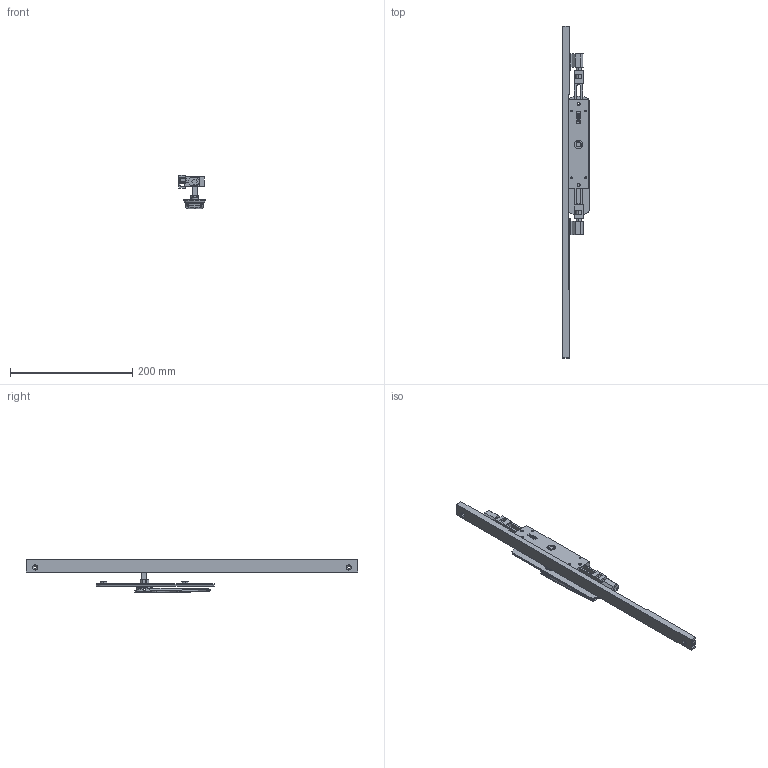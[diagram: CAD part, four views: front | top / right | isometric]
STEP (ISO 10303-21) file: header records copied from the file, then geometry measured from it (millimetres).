
FILE_DESCRIPTION (( 'STEP AP214' ), '1' );
FILE_NAME ('TPL-W-APC-603-L 28Oct2024.STEP', '2024-10-28T03:11:33', ( '' ), ( '' ), 'SwSTEP 2.0', 'SolidWorks 2023', '' );
FILE_SCHEMA (( 'AUTOMOTIVE_DESIGN' ));
Length unit declared in the file: millimetre
Products named in the file (18): Copy of TPLGen2 lock body non-keyed^Copy of TPLGen2 lock body non-keyed assembly_TPL-W-APC-103 18Oct2024; Copy of LKC-516 Escutcheon plate unkeyed 195mm long zinc - simplified^Copy of TPGen2 handle non-keyed short zinc - simplified_TPL-W-APC-103 18Oct2024; Copy of TPLGen2 lock body non-keyed assembly^TPL-W-APC-103 18Oct2024_Bolts extended; Copy of LKC-585 Rotator body zinc^Copy of TPGen2 handle non-keyed short zinc - simplified_TPL-W-APC-103 18Oct2024; Copy of LKC-505 Swing handle zinc - simplified^Copy of TPGen2 handle non-keyed short zinc - simplified_TPL-W-APC-103 18Oct2024; Adapter D - simplfied^TPL-W-APC-103 18Oct2024; Copy of LKC-586 Spindle square 8mm with M4 hole^Copy of TPGen2 handle non-keyed short zinc - simplified_TPL-W-APC-103 18Oct2024_37mm; Copy of Copy of LKC-531 Lock twinpoint transmission rod wood system^TPL-W-APC-103 18Oct2024_Standard Range 2891.7mm; Copy of COV-115-A Cover A suit TPLGen2 standard range AU with hinge holes^TPL-W-APC-103 18Oct2024_1335mm; Bolt(2)^TPL-W-APC-103 18Oct2024; Copy of TPGen2 handle non-keyed short zinc - simplified^TPL-W-APC-103 18Oct2024_Vertical; TPL-W-APC-603-L 28Oct2024; COV-115-C Cover C suit TPLGen2 standard range AU; Copy of COV-115-B Cover B suit TPLGen2 standard range AU with hinge holes^TPL-W-APC-103 18Oct2024_2870mm; Copy of TPLGen2 push rod - simplified^Copy of TPLGen2 lock body non-keyed assembly_TPL-W-APC-103 18Oct2024_Female thread M10; Adapter C - simplfied^TPL-W-APC-103 18Oct2024; Copy of LKC-584 Pivot body zinc - simplified^Copy of TPGen2 handle non-keyed short zinc - simplified_TPL-W-APC-103 18Oct2024; Copy of Copy of Copy of LKC-531 Lock twinpoint transmission rod wood system^TPL-W-APC-103 18Oct2024_Standard Range 2891.7mm
Assembly tree (15 placements, depth 3):
  Copy of COV-115-A Cover A suit TPLGen2 standard range AU with hinge holes^TPL-W-APC-103 18Oct2024_1335mm
  Bolt(2)^TPL-W-APC-103 18Oct2024
  TPL-W-APC-603-L 28Oct2024
    Copy of TPLGen2 lock body non-keyed assembly^TPL-W-APC-103 18Oct2024_Bolts extended
      Copy of TPLGen2 lock body non-keyed^Copy of TPLGen2 lock body non-keyed assembly_TPL-W-APC-103 18Oct2024
      Copy of TPLGen2 push rod - simplified^Copy of TPLGen2 lock body non-keyed assembly_TPL-W-APC-103 18Oct2024_Female thread M10  x2
    Copy of TPGen2 handle non-keyed short zinc - simplified^TPL-W-APC-103 18Oct2024_Vertical
      Copy of LKC-516 Escutcheon plate unkeyed 195mm long zinc - simplified^Copy of TPGen2 handle non-keyed short zinc - simplified_TPL-W-APC-103 18Oct2024
      Copy of LKC-505 Swing handle zinc - simplified^Copy of TPGen2 handle non-keyed short zinc - simplified_TPL-W-APC-103 18Oct2024
      Copy of LKC-585 Rotator body zinc^Copy of TPGen2 handle non-keyed short zinc - simplified_TPL-W-APC-103 18Oct2024
      Copy of LKC-586 Spindle square 8mm with M4 hole^Copy of TPGen2 handle non-keyed short zinc - simplified_TPL-W-APC-103 18Oct2024_37mm
      Copy of LKC-584 Pivot body zinc - simplified^Copy of TPGen2 handle non-keyed short zinc - simplified_TPL-W-APC-103 18Oct2024
    COV-115-C Cover C suit TPLGen2 standard range AU
    Copy of Copy of LKC-531 Lock twinpoint transmission rod wood system^TPL-W-APC-103 18Oct2024_Standard Range 2891.7mm
    Copy of Copy of Copy of LKC-531 Lock twinpoint transmission rod wood system^TPL-W-APC-103 18Oct2024_Standard Range 2891.7mm
    Adapter D - simplfied^TPL-W-APC-103 18Oct2024
    Adapter C - simplfied^TPL-W-APC-103 18Oct2024
  Copy of COV-115-B Cover B suit TPLGen2 standard range AU with hinge holes^TPL-W-APC-103 18Oct2024_2870mm
Bounding box: 43.5 x 544 x 55.06 mm (x, y, z)
Volume: 201371.2 mm3; surface area: 112789.7 mm2
Topology: 13 solids, 13 shells, 843 faces, 2076 edges, 1288 vertices
Faces by surface type: plane 300, bspline 241, cylinder 182, cone 66, torus 46, sphere 8
Entity records: 30415 total; most frequent: CARTESIAN_POINT 12515, ORIENTED_EDGE 3960, DIRECTION 3150, EDGE_CURVE 1980, VERTEX_POINT 1228, AXIS2_PLACEMENT_3D 1141, EDGE_LOOP 890, VECTOR 868
